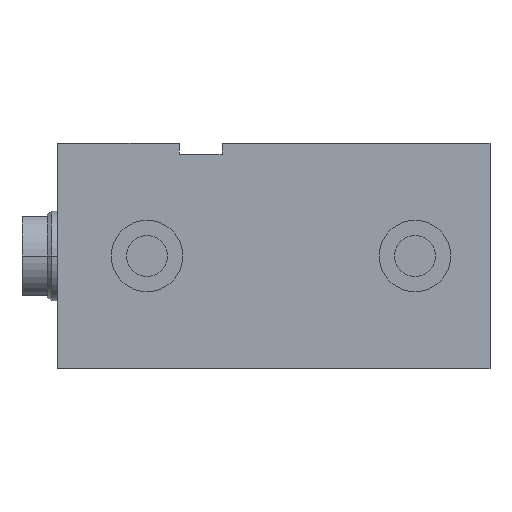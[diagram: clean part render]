
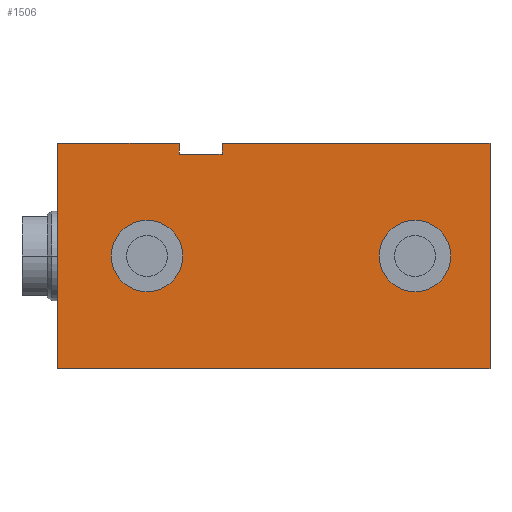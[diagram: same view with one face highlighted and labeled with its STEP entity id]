
A CAD part, left-side view. The second image highlights one B-rep face of the part: STEP entity #1506.
In plain terms, the highlighted planar face has unit normal (-1, 0, 0).
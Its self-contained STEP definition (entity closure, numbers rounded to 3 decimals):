
#6 = ORIENTED_EDGE ( 'NONE', *, *, #2183, .F. ) ;
#7 = DIRECTION ( 'NONE',  ( 0., 0., -1. ) ) ;
#11 = CARTESIAN_POINT ( 'NONE',  ( -42.5, 0., -31.5 ) ) ;
#22 = DIRECTION ( 'NONE',  ( -1., 0., 0. ) ) ;
#28 = DIRECTION ( 'NONE',  ( 0., 0., 1. ) ) ;
#29 = VECTOR ( 'NONE', #731, 1000. ) ;
#43 = CARTESIAN_POINT ( 'NONE',  ( -42.5, 87., 28.5 ) ) ;
#103 = EDGE_CURVE ( 'NONE', #1834, #2505, #2646, .T. ) ;
#105 = VERTEX_POINT ( 'NONE', #1888 ) ;
#110 = VERTEX_POINT ( 'NONE', #2493 ) ;
#118 = VERTEX_POINT ( 'NONE', #1670 ) ;
#132 = EDGE_CURVE ( 'NONE', #1282, #118, #1979, .T. ) ;
#203 = AXIS2_PLACEMENT_3D ( 'NONE', #1117, #1360, #7 ) ;
#232 = ORIENTED_EDGE ( 'NONE', *, *, #1631, .T. ) ;
#395 = FACE_BOUND ( 'NONE', #1241, .T. ) ;
#420 = VECTOR ( 'NONE', #980, 1000. ) ;
#497 = VECTOR ( 'NONE', #28, 1000. ) ;
#514 = AXIS2_PLACEMENT_3D ( 'NONE', #1072, #1980, #2193 ) ;
#676 = LINE ( 'NONE', #2343, #2452 ) ;
#715 = CARTESIAN_POINT ( 'NONE',  ( -42.5, 121., -31.5 ) ) ;
#716 = ORIENTED_EDGE ( 'NONE', *, *, #1609, .F. ) ;
#731 = DIRECTION ( 'NONE',  ( 0., 0., 1. ) ) ;
#767 = CARTESIAN_POINT ( 'NONE',  ( -42.5, 87., 28.5 ) ) ;
#770 = EDGE_CURVE ( 'NONE', #1481, #793, #918, .T. ) ;
#793 = VERTEX_POINT ( 'NONE', #2039 ) ;
#826 = VECTOR ( 'NONE', #2769, 1000. ) ;
#846 = CARTESIAN_POINT ( 'NONE',  ( -42.5, 96., 0. ) ) ;
#918 = CIRCLE ( 'NONE', #2226, 10. ) ;
#942 = LINE ( 'NONE', #975, #2060 ) ;
#965 = CARTESIAN_POINT ( 'NONE',  ( -42.5, 75., 31.5 ) ) ;
#972 = DIRECTION ( 'NONE',  ( 0., 0., 1. ) ) ;
#975 = CARTESIAN_POINT ( 'NONE',  ( -42.5, 71., 31.5 ) ) ;
#980 = DIRECTION ( 'NONE',  ( 0., -1., 0. ) ) ;
#982 = FACE_OUTER_BOUND ( 'NONE', #1416, .T. ) ;
#1027 = DIRECTION ( 'NONE',  ( 0., 0., 1. ) ) ;
#1031 = ORIENTED_EDGE ( 'NONE', *, *, #103, .T. ) ;
#1051 = FACE_BOUND ( 'NONE', #2677, .T. ) ;
#1072 = CARTESIAN_POINT ( 'NONE',  ( -42.5, 21., 0. ) ) ;
#1082 = ORIENTED_EDGE ( 'NONE', *, *, #2785, .F. ) ;
#1117 = CARTESIAN_POINT ( 'NONE',  ( -42.5, 71., -31.5 ) ) ;
#1161 = VERTEX_POINT ( 'NONE', #2501 ) ;
#1172 = DIRECTION ( 'NONE',  ( -1., 0., 0. ) ) ;
#1175 = CARTESIAN_POINT ( 'NONE',  ( -42.5, 21., -10. ) ) ;
#1193 = DIRECTION ( 'NONE',  ( 0., -1., 0. ) ) ;
#1196 = CARTESIAN_POINT ( 'NONE',  ( -42.5, 71., 31.5 ) ) ;
#1218 = EDGE_CURVE ( 'NONE', #2806, #1796, #2282, .T. ) ;
#1229 = LINE ( 'NONE', #1625, #29 ) ;
#1241 = EDGE_LOOP ( 'NONE', ( #2164, #6 ) ) ;
#1282 = VERTEX_POINT ( 'NONE', #1175 ) ;
#1292 = EDGE_CURVE ( 'NONE', #105, #1660, #2671, .T. ) ;
#1320 = EDGE_CURVE ( 'NONE', #1660, #1161, #1411, .T. ) ;
#1352 = CARTESIAN_POINT ( 'NONE',  ( -42.5, 96., 10. ) ) ;
#1360 = DIRECTION ( 'NONE',  ( 1., 0., 0. ) ) ;
#1375 = CARTESIAN_POINT ( 'NONE',  ( -42.5, 96., 0. ) ) ;
#1378 = VECTOR ( 'NONE', #2595, 1000. ) ;
#1398 = EDGE_CURVE ( 'NONE', #1834, #110, #676, .T. ) ;
#1411 = LINE ( 'NONE', #1196, #826 ) ;
#1416 = EDGE_LOOP ( 'NONE', ( #1870, #2437, #1082, #2396, #1425, #1792, #1031, #232 ) ) ;
#1425 = ORIENTED_EDGE ( 'NONE', *, *, #2725, .F. ) ;
#1474 = AXIS2_PLACEMENT_3D ( 'NONE', #846, #2395, #1027 ) ;
#1475 = LINE ( 'NONE', #767, #420 ) ;
#1481 = VERTEX_POINT ( 'NONE', #1352 ) ;
#1506 = ADVANCED_FACE ( 'NONE', ( #982, #1051, #395 ), #2241, .F. ) ;
#1588 = DIRECTION ( 'NONE',  ( 0., 0., 1. ) ) ;
#1609 = EDGE_CURVE ( 'NONE', #118, #1282, #1895, .T. ) ;
#1625 = CARTESIAN_POINT ( 'NONE',  ( -42.5, 0., -31.5 ) ) ;
#1631 = EDGE_CURVE ( 'NONE', #2505, #1161, #1229, .T. ) ;
#1660 = VERTEX_POINT ( 'NONE', #965 ) ;
#1670 = CARTESIAN_POINT ( 'NONE',  ( -42.5, 21., 10. ) ) ;
#1682 = DIRECTION ( 'NONE',  ( 0., 0., 1. ) ) ;
#1750 = CIRCLE ( 'NONE', #1474, 10. ) ;
#1792 = ORIENTED_EDGE ( 'NONE', *, *, #1398, .F. ) ;
#1796 = VERTEX_POINT ( 'NONE', #2264 ) ;
#1834 = VERTEX_POINT ( 'NONE', #715 ) ;
#1848 = AXIS2_PLACEMENT_3D ( 'NONE', #2520, #1172, #2746 ) ;
#1870 = ORIENTED_EDGE ( 'NONE', *, *, #1320, .F. ) ;
#1888 = CARTESIAN_POINT ( 'NONE',  ( -42.5, 75., 28.5 ) ) ;
#1895 = CIRCLE ( 'NONE', #1848, 10. ) ;
#1979 = CIRCLE ( 'NONE', #514, 10. ) ;
#1980 = DIRECTION ( 'NONE',  ( -1., 0., 0. ) ) ;
#2039 = CARTESIAN_POINT ( 'NONE',  ( -42.5, 96., -10. ) ) ;
#2060 = VECTOR ( 'NONE', #1193, 1000. ) ;
#2069 = VECTOR ( 'NONE', #972, 1000. ) ;
#2093 = CARTESIAN_POINT ( 'NONE',  ( -42.5, 87., 28.5 ) ) ;
#2164 = ORIENTED_EDGE ( 'NONE', *, *, #770, .F. ) ;
#2183 = EDGE_CURVE ( 'NONE', #793, #1481, #1750, .T. ) ;
#2193 = DIRECTION ( 'NONE',  ( 0., 0., 1. ) ) ;
#2226 = AXIS2_PLACEMENT_3D ( 'NONE', #1375, #22, #1588 ) ;
#2241 = PLANE ( 'NONE',  #203 ) ;
#2264 = CARTESIAN_POINT ( 'NONE',  ( -42.5, 87., 31.5 ) ) ;
#2282 = LINE ( 'NONE', #43, #497 ) ;
#2324 = ORIENTED_EDGE ( 'NONE', *, *, #132, .F. ) ;
#2343 = CARTESIAN_POINT ( 'NONE',  ( -42.5, 121., -31.5 ) ) ;
#2395 = DIRECTION ( 'NONE',  ( -1., 0., 0. ) ) ;
#2396 = ORIENTED_EDGE ( 'NONE', *, *, #1218, .T. ) ;
#2437 = ORIENTED_EDGE ( 'NONE', *, *, #1292, .F. ) ;
#2452 = VECTOR ( 'NONE', #1682, 1000. ) ;
#2493 = CARTESIAN_POINT ( 'NONE',  ( -42.5, 121., 31.5 ) ) ;
#2501 = CARTESIAN_POINT ( 'NONE',  ( -42.5, 0., 31.5 ) ) ;
#2505 = VERTEX_POINT ( 'NONE', #11 ) ;
#2520 = CARTESIAN_POINT ( 'NONE',  ( -42.5, 21., 0. ) ) ;
#2528 = CARTESIAN_POINT ( 'NONE',  ( -42.5, 75., 28.5 ) ) ;
#2579 = CARTESIAN_POINT ( 'NONE',  ( -42.5, 71., -31.5 ) ) ;
#2595 = DIRECTION ( 'NONE',  ( 0., -1., 0. ) ) ;
#2646 = LINE ( 'NONE', #2579, #1378 ) ;
#2671 = LINE ( 'NONE', #2528, #2069 ) ;
#2677 = EDGE_LOOP ( 'NONE', ( #716, #2324 ) ) ;
#2725 = EDGE_CURVE ( 'NONE', #110, #1796, #942, .T. ) ;
#2746 = DIRECTION ( 'NONE',  ( 0., 0., 1. ) ) ;
#2769 = DIRECTION ( 'NONE',  ( 0., -1., 0. ) ) ;
#2785 = EDGE_CURVE ( 'NONE', #2806, #105, #1475, .T. ) ;
#2806 = VERTEX_POINT ( 'NONE', #2093 ) ;
